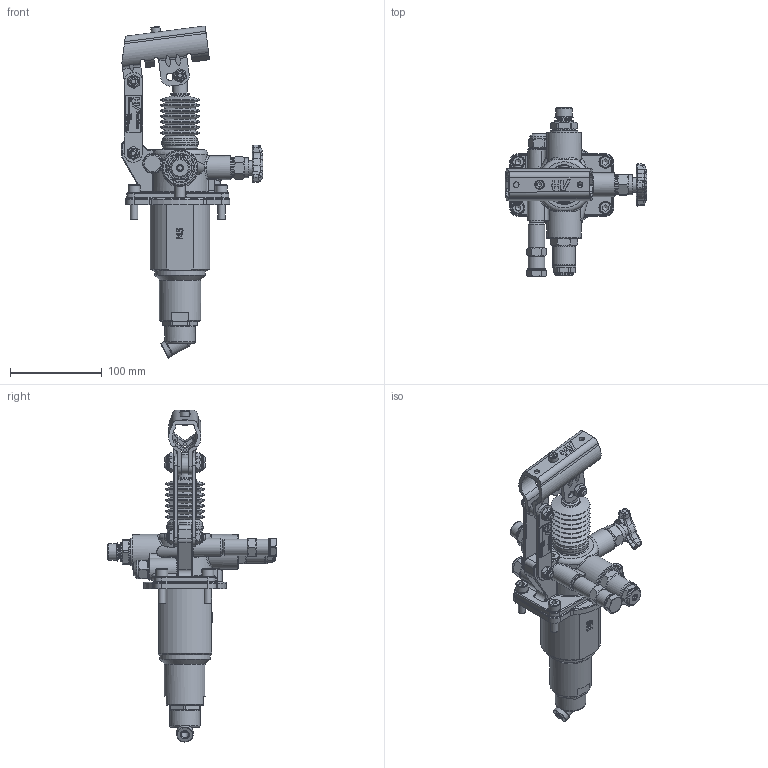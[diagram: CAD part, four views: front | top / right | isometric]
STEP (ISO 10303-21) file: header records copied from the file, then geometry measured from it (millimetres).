
FILE_DESCRIPTION((''),'2;1');
FILE_NAME('G:\HV_HYDRAULIC\AZIENDA_HV_HYDRAULIC\ARCHIVIO_DISEGNI\5_PRODOTTI_FINITI\1_POMPE_MANUALI\6071_PM2V_5-80\6071.0137_PM2V_5-80_a-byB-pm-s_(HV)\6071.0137.stp','2024-03-29T11:39:58',('christian.scardovi'),(''),'Autodesk Inventor 2013','Autodesk Inventor 2013','');
FILE_SCHEMA(('AUTOMOTIVE_DESIGN { 1 0 10303 214 1 1 1 1 }'));
Length unit declared in the file: millimetre
Products named in the file (1): 6071.0137
Bounding box: 154 x 183.5 x 361.27 mm (x, y, z)
Volume: 778768.8 mm3; surface area: 189052.1 mm2
Topology: 3 solids, 4 shells, 1995 faces, 5040 edges, 3158 vertices
Faces by surface type: plane 831, cylinder 459, bspline 314, cone 206, torus 170, sphere 15
Full cylindrical faces by diameter (mm): 2 x4, 3 x9, 4 x1, 5 x10, 6 x4, 6.5 x3, 6.647 x1, 8 x18, 8.566 x1, 8.917 x1, 9 x3, 9.2 x1, 10 x3, 11 x5, 11.05 x6, 11.445 x1, 12 x5, 13 x4, 13.2 x1, 14 x9, 14.95 x4, 15 x1, 16 x3, 16.6 x3, 17 x1, 18 x11, 18.4 x1, 18.631 x1, 19 x1, 20 x7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
Entity records: 70249 total; most frequent: CARTESIAN_POINT 24817, ORIENTED_EDGE 9070, DIRECTION 8273, EDGE_CURVE 4535, AXIS2_PLACEMENT_3D 3073, VERTEX_POINT 3013, EDGE_LOOP 2499, VECTOR 2127
